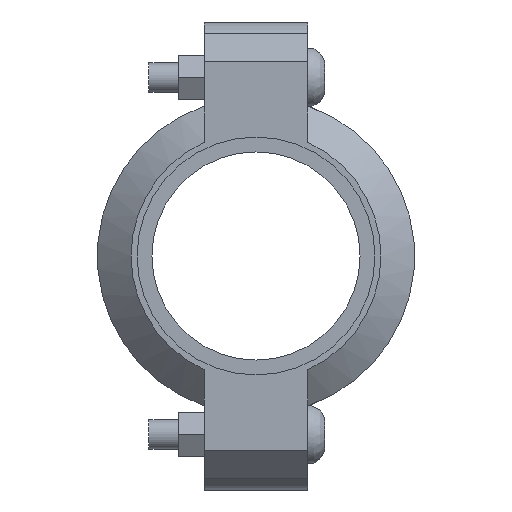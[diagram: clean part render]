
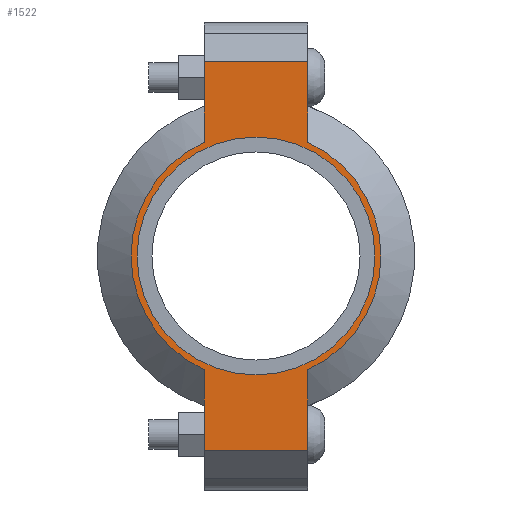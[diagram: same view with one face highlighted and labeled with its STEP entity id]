
A CAD part, left-side view. The second image highlights one B-rep face of the part: STEP entity #1522.
In plain terms, the highlighted planar face has unit normal (-1, 0, 0) as drawn and (0, 0, 1) by its records, which use the part's own axes.
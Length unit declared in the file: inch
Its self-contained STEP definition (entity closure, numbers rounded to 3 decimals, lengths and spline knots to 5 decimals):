
#184=LINE('',#2655,#277);
#197=LINE('',#2699,#290);
#202=LINE('',#2723,#295);
#209=LINE('',#2741,#302);
#216=LINE('',#2766,#309);
#217=LINE('',#2769,#310);
#277=VECTOR('',#2119,0.3937);
#290=VECTOR('',#2148,0.3937);
#295=VECTOR('',#2159,0.3937);
#302=VECTOR('',#2176,0.3937);
#309=VECTOR('',#2197,0.3937);
#310=VECTOR('',#2202,0.3937);
#358=FACE_BOUND('',#518,.T.);
#423=FACE_OUTER_BOUND('',#517,.T.);
#517=EDGE_LOOP('',(#1271,#1272,#1273,#1274,#1275,#1276,#1277,#1278));
#518=EDGE_LOOP('',(#1279));
#614=CIRCLE('',#1785,1.575);
#615=CIRCLE('',#1786,1.575);
#616=CIRCLE('',#1787,1.5);
#717=VERTEX_POINT('',#2650);
#718=VERTEX_POINT('',#2654);
#734=VERTEX_POINT('',#2696);
#735=VERTEX_POINT('',#2698);
#741=VERTEX_POINT('',#2718);
#742=VERTEX_POINT('',#2722);
#747=VERTEX_POINT('',#2738);
#748=VERTEX_POINT('',#2740);
#754=VERTEX_POINT('',#2771);
#884=EDGE_CURVE('',#718,#717,#184,.T.);
#904=EDGE_CURVE('',#735,#734,#197,.T.);
#913=EDGE_CURVE('',#742,#741,#202,.T.);
#922=EDGE_CURVE('',#748,#747,#209,.T.);
#934=EDGE_CURVE('',#742,#734,#216,.T.);
#935=EDGE_CURVE('',#741,#748,#614,.T.);
#936=EDGE_CURVE('',#718,#747,#217,.T.);
#937=EDGE_CURVE('',#717,#735,#615,.T.);
#938=EDGE_CURVE('',#754,#754,#616,.T.);
#1271=ORIENTED_EDGE('',*,*,#934,.F.);
#1272=ORIENTED_EDGE('',*,*,#913,.T.);
#1273=ORIENTED_EDGE('',*,*,#935,.T.);
#1274=ORIENTED_EDGE('',*,*,#922,.T.);
#1275=ORIENTED_EDGE('',*,*,#936,.F.);
#1276=ORIENTED_EDGE('',*,*,#884,.T.);
#1277=ORIENTED_EDGE('',*,*,#937,.T.);
#1278=ORIENTED_EDGE('',*,*,#904,.T.);
#1279=ORIENTED_EDGE('',*,*,#938,.T.);
#1375=PLANE('',#1784);
#1522=ADVANCED_FACE('',(#423,#358),#1375,.T.);
#1784=AXIS2_PLACEMENT_3D('',#2767,#2198,#2199);
#1785=AXIS2_PLACEMENT_3D('',#2768,#2200,#2201);
#1786=AXIS2_PLACEMENT_3D('',#2770,#2203,#2204);
#1787=AXIS2_PLACEMENT_3D('',#2772,#2205,#2206);
#2119=DIRECTION('',(1.,0.,0.));
#2148=DIRECTION('',(1.,0.,0.));
#2159=DIRECTION('',(-1.,0.,0.));
#2176=DIRECTION('',(-1.,0.,0.));
#2197=DIRECTION('',(0.,-1.,0.));
#2198=DIRECTION('center_axis',(0.,0.,1.));
#2199=DIRECTION('ref_axis',(-1.,0.,0.));
#2200=DIRECTION('center_axis',(0.,0.,1.));
#2201=DIRECTION('ref_axis',(1.,0.,0.));
#2202=DIRECTION('',(0.,1.,0.));
#2203=DIRECTION('center_axis',(0.,0.,1.));
#2204=DIRECTION('ref_axis',(1.,0.,0.));
#2205=DIRECTION('center_axis',(0.,0.,-1.));
#2206=DIRECTION('ref_axis',(1.,0.,0.));
#2650=CARTESIAN_POINT('',(-1.43462,-0.65,0.94));
#2654=CARTESIAN_POINT('',(-2.45,-0.65,0.94));
#2655=CARTESIAN_POINT('',(2.95,-0.65,0.94));
#2696=CARTESIAN_POINT('',(2.45,-0.65,0.94));
#2698=CARTESIAN_POINT('',(1.43462,-0.65,0.94));
#2699=CARTESIAN_POINT('',(2.95,-0.65,0.94));
#2718=CARTESIAN_POINT('',(1.43462,0.65,0.94));
#2722=CARTESIAN_POINT('',(2.45,0.65,0.94));
#2723=CARTESIAN_POINT('',(-2.95,0.65,0.94));
#2738=CARTESIAN_POINT('',(-2.45,0.65,0.94));
#2740=CARTESIAN_POINT('',(-1.43462,0.65,0.94));
#2741=CARTESIAN_POINT('',(-2.95,0.65,0.94));
#2766=CARTESIAN_POINT('',(2.45,-0.325,0.94));
#2767=CARTESIAN_POINT('Origin',(0.,0.,
0.94));
#2768=CARTESIAN_POINT('Origin',(0.,0.,0.94));
#2769=CARTESIAN_POINT('',(-2.45,0.325,0.94));
#2770=CARTESIAN_POINT('Origin',(0.,0.,0.94));
#2771=CARTESIAN_POINT('',(-1.5,0.,0.94));
#2772=CARTESIAN_POINT('Origin',(0.,0.,0.94));
